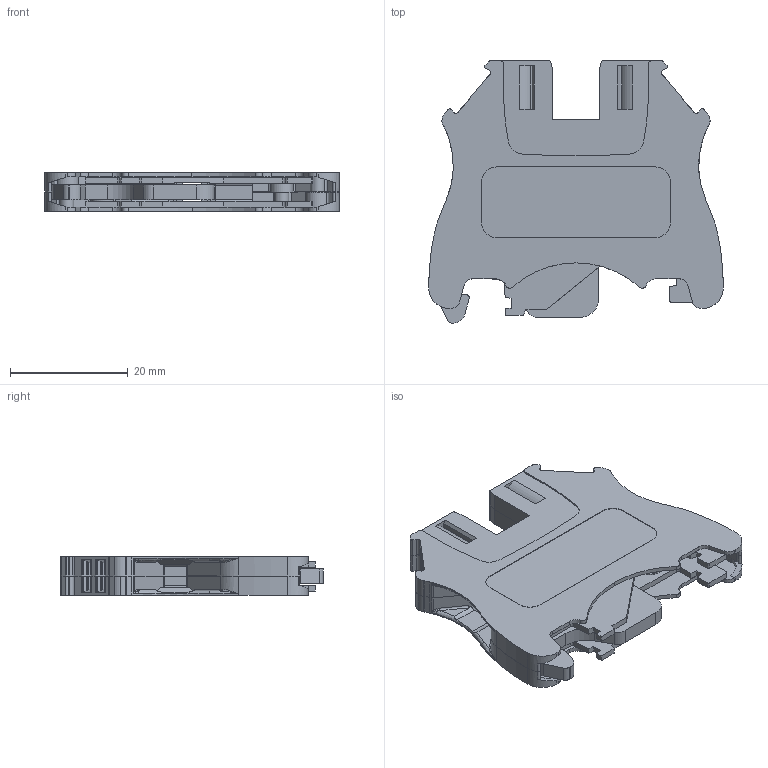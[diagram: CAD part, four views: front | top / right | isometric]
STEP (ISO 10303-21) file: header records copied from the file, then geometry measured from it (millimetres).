
FILE_DESCRIPTION(('Open CASCADE Model'),'2;1');
FILE_NAME('Open CASCADE Shape Model','2024-10-25T09:44:51',('Author'),( 'Open CASCADE'),'Open CASCADE STEP processor 6.5','Open CASCADE 6.5' ,'Unknown');
FILE_SCHEMA(('AUTOMOTIVE_DESIGN { 1 0 10303 214 1 1 1 1 }'));
Length unit declared in the file: millimetre
Products named in the file (733): CADSOFTTOOLS 1; CADSOFTTOOLS 1.1; CADSOFTTOOLS 1.2; CADSOFTTOOLS 1.3; CADSOFTTOOLS 1.4; CADSOFTTOOLS 1.5; CADSOFTTOOLS 1.6; CADSOFTTOOLS 1.7; CADSOFTTOOLS 1.8; CADSOFTTOOLS 1.9; CADSOFTTOOLS 1.10; CADSOFTTOOLS 1.11; CADSOFTTOOLS 1.12; CADSOFTTOOLS 1.13; CADSOFTTOOLS 1.14; CADSOFTTOOLS 1.15; CADSOFTTOOLS 1.16; CADSOFTTOOLS 1.17; CADSOFTTOOLS 1.18; CADSOFTTOOLS 1.19; CADSOFTTOOLS 1.20; CADSOFTTOOLS 1.21; CADSOFTTOOLS 1.22; CADSOFTTOOLS 1.23; CADSOFTTOOLS 1.24; CADSOFTTOOLS 1.25; CADSOFTTOOLS 1.26; CADSOFTTOOLS 1.27; CADSOFTTOOLS 1.28; CADSOFTTOOLS 1.29; CADSOFTTOOLS 1.30; CADSOFTTOOLS 1.31; CADSOFTTOOLS 1.32; CADSOFTTOOLS 1.33; CADSOFTTOOLS 1.34; CADSOFTTOOLS 1.35; CADSOFTTOOLS 1.36; CADSOFTTOOLS 1.37; CADSOFTTOOLS 1.38; CADSOFTTOOLS 1.39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
Assembly tree (1097 placements, depth 2):
  CADSOFTTOOLS 1
    CADSOFTTOOLS 1.1  x2
    CADSOFTTOOLS 1.2  x2
    CADSOFTTOOLS 1.3  x2
    CADSOFTTOOLS 1.4  x2
    CADSOFTTOOLS 1.5  x2
    CADSOFTTOOLS 1.6  x2
    CADSOFTTOOLS 1.7  x2
    CADSOFTTOOLS 1.8  x2
    CADSOFTTOOLS 1.9  x2
    CADSOFTTOOLS 1.10  x2
    CADSOFTTOOLS 1.11  x2
    CADSOFTTOOLS 1.12  x2
    CADSOFTTOOLS 1.13  x2
    CADSOFTTOOLS 1.14  x2
    CADSOFTTOOLS 1.15  x2
    CADSOFTTOOLS 1.16  x2
    CADSOFTTOOLS 1.17  x2
    CADSOFTTOOLS 1.18  x2
    CADSOFTTOOLS 1.19  x2
    CADSOFTTOOLS 1.20  x2
    CADSOFTTOOLS 1.21  x2
    CADSOFTTOOLS 1.22  x2
    CADSOFTTOOLS 1.23  x2
    CADSOFTTOOLS 1.24  x2
    CADSOFTTOOLS 1.25  x2
    CADSOFTTOOLS 1.26  x2
    CADSOFTTOOLS 1.27  x2
    CADSOFTTOOLS 1.28  x2
    CADSOFTTOOLS 1.29  x2
    CADSOFTTOOLS 1.30  x2
    CADSOFTTOOLS 1.31  x2
    CADSOFTTOOLS 1.32  x2
    CADSOFTTOOLS 1.33  x2
    CADSOFTTOOLS 1.34  x2
    CADSOFTTOOLS 1.35  x2
    CADSOFTTOOLS 1.36  x2
    CADSOFTTOOLS 1.37  x2
    CADSOFTTOOLS 1.38  x2
    CADSOFTTOOLS 1.39  x2
    CADSOFTTOOLS 1.40  x2
    CADSOFTTOOLS 1.41  x2
    CADSOFTTOOLS 1.42  x2
    CADSOFTTOOLS 1.43  x2
    CADSOFTTOOLS 1.44  x2
    CADSOFTTOOLS 1.45  x2
    CADSOFTTOOLS 1.46  x2
    CADSOFTTOOLS 1.47  x2
    CADSOFTTOOLS 1.48  x2
    CADSOFTTOOLS 1.49  x2
    CADSOFTTOOLS 1.50  x2
    CADSOFTTOOLS 1.51  x2
    CADSOFTTOOLS 1.52  x2
    CADSOFTTOOLS 1.53  x2
    CADSOFTTOOLS 1.54  x2
    CADSOFTTOOLS 1.55  x2
    CADSOFTTOOLS 1.56  x2
    CADSOFTTOOLS 1.57  x2
    CADSOFTTOOLS 1.58  x2
    CADSOFTTOOLS 1.59  x2
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Bounding box: 50 x 44.5 x 6.5 mm (x, y, z)
Surface area: 11474.5 mm2 (no closed solid volume)
Topology: 0 solids, 1097 shells, 1097 faces, 6131 edges, 6120 vertices
Faces by surface type: plane 512, cylinder 382, cone 130, bspline 44, torus 29
Full cylindrical faces by diameter (mm): 3.5 x1
Entity records: 101127 total; most frequent: CARTESIAN_POINT 35442, DIRECTION 10455, LINE 4005, VECTOR 4005, ORIENTED_EDGE 3998, PCURVE 3998, DEFINITIONAL_REPRESENTATION 3998, EDGE_CURVE 3997
